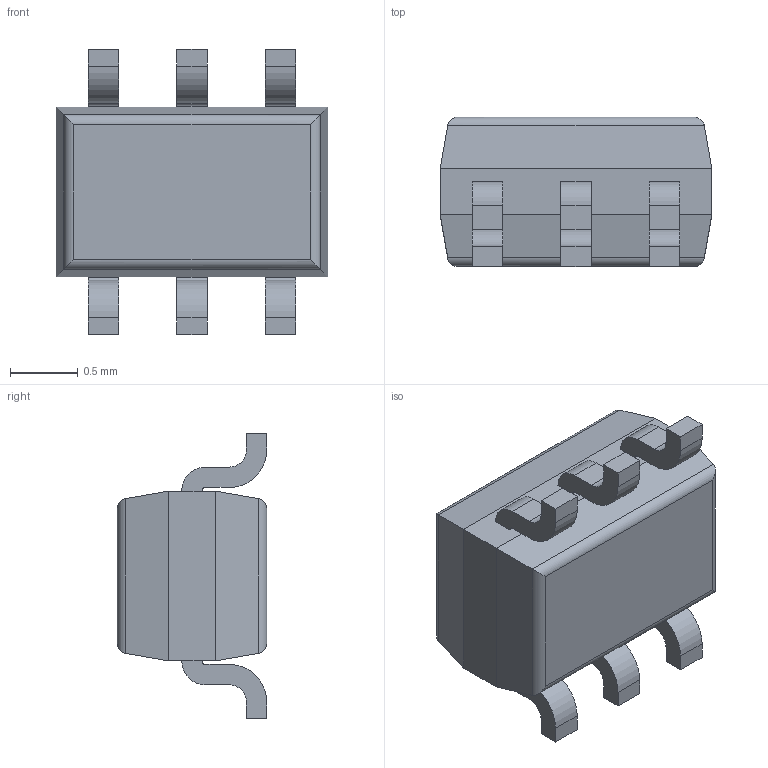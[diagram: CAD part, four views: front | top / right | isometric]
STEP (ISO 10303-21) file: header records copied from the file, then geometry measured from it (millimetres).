
FILE_DESCRIPTION (( 'STEP AP214' ), '1' );
FILE_NAME ( 'SOT23-6P65_210X110L36X22.STEP', '2021-10-06T06:49:12', ( '' ), ( '' ), '', '©2017 PCB Libraries, Inc.', '' );
FILE_SCHEMA (( 'AUTOMOTIVE_DESIGN' ));
Length unit declared in the file: millimetre
Products named in the file (1): SOT23-6P65_210X110L36X22
Bounding box: 2 x 1.1 x 2.1 mm (x, y, z)
Volume: 2.7 mm3; surface area: 14.8 mm2
Topology: 7 solids, 7 shells, 109 faces, 266 edges, 172 vertices
Faces by surface type: plane 75, cylinder 34
Entity records: 3333 total; most frequent: CARTESIAN_POINT 572, ORIENTED_EDGE 532, DIRECTION 530, EDGE_CURVE 266, VECTOR 206, LINE 206, VERTEX_POINT 172, AXIS2_PLACEMENT_3D 162
